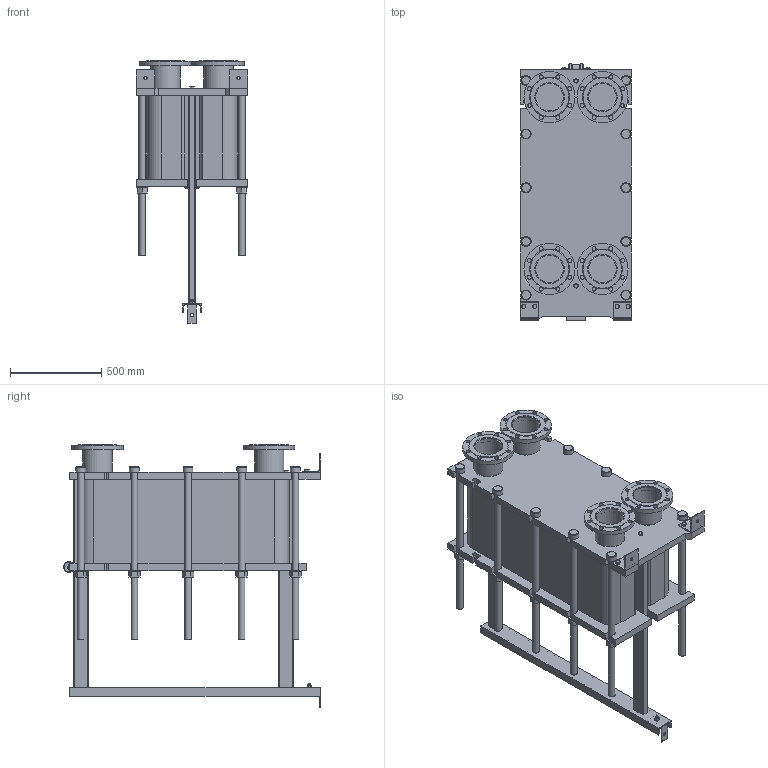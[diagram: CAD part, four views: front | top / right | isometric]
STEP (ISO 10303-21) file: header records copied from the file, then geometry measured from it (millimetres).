
FILE_DESCRIPTION(/* description */ (''),/* implementation_level */ '2;1');
FILE_NAME(/* name */ 'C:\Users\zhuro\Desktop\ENCO\TO\ЭН-041\ЭН-0,5-041-133-1.stp',/* time_stamp */ '2022-06-06T11:00:26+03:00',/* author */ ('zhuro'),/* organization */ (''),/* preprocessor_version */ 'ST-DEVELOPER v18.1',/* originating_system */ 'Autodesk Inventor 2022',/* authorisation */ '');
FILE_SCHEMA (('AUTOMOTIVE_DESIGN { 1 0 10303 214 3 1 1 }'));
Length unit declared in the file: millimetre
Products named in the file (1): ЭН-0,5-041-133-1
Bounding box: 610 x 1406.5 x 1437.5 mm (x, y, z)
Volume: 340866491.7 mm3; surface area: 9752134.1 mm2
Topology: 52 solids, 52 shells, 711 faces, 1696 edges, 1094 vertices
Faces by surface type: plane 487, cylinder 177, cone 41, torus 6
Full cylindrical faces by diameter (mm): 8 x4, 10 x2, 16 x8, 18 x3, 22 x32, 36 x24, 50 x1, 54 x10, 60 x12, 151 x4, 161 x8, 280 x4
Entity records: 22667 total; most frequent: CARTESIAN_POINT 5230, DIRECTION 3644, ORIENTED_EDGE 3392, EDGE_CURVE 1696, AXIS2_PLACEMENT_3D 1272, LINE 1100, VECTOR 1100, VERTEX_POINT 1094
